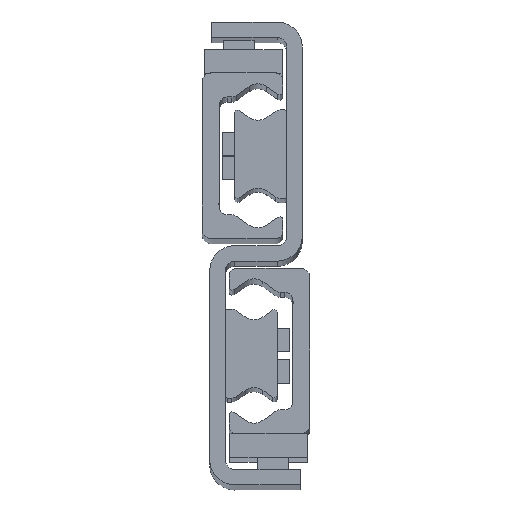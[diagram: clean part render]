
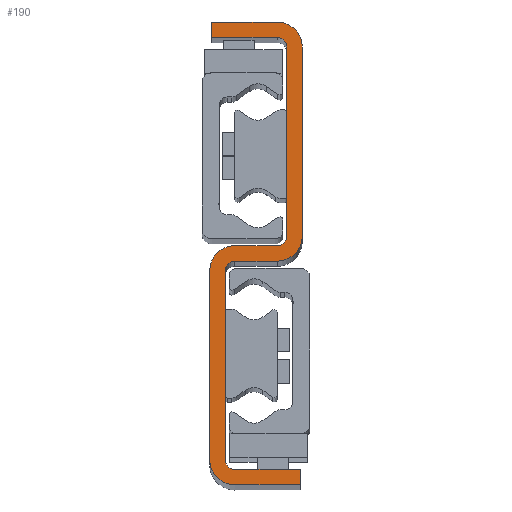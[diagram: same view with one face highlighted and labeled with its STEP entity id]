
A CAD part, top view. The second image highlights one B-rep face of the part: STEP entity #190.
In plain terms, the highlighted planar face has unit normal (0, 0, 1).
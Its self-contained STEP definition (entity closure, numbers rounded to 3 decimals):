
#190=ADVANCED_FACE('',(#593),#594,.T.);
#593=FACE_OUTER_BOUND('',#1207,.T.);
#594=PLANE('',#1208);
#1207=EDGE_LOOP('',(#2445,#2446,#2447,#2448,#2449,#2450,#2451,#2452,#2453,#2454,#2455,#2456,#2457,#2458,#2459,#2460,#2461,#2462,#2463,#2464));
#1208=AXIS2_PLACEMENT_3D('',#2465,#2466,#2467);
#2445=ORIENTED_EDGE('',*,*,#4145,.F.);
#2446=ORIENTED_EDGE('',*,*,#4203,.F.);
#2447=ORIENTED_EDGE('',*,*,#4200,.F.);
#2448=ORIENTED_EDGE('',*,*,#4197,.F.);
#2449=ORIENTED_EDGE('',*,*,#4194,.F.);
#2450=ORIENTED_EDGE('',*,*,#4191,.F.);
#2451=ORIENTED_EDGE('',*,*,#4188,.F.);
#2452=ORIENTED_EDGE('',*,*,#4185,.F.);
#2453=ORIENTED_EDGE('',*,*,#4182,.F.);
#2454=ORIENTED_EDGE('',*,*,#4179,.F.);
#2455=ORIENTED_EDGE('',*,*,#4176,.F.);
#2456=ORIENTED_EDGE('',*,*,#4173,.F.);
#2457=ORIENTED_EDGE('',*,*,#4170,.F.);
#2458=ORIENTED_EDGE('',*,*,#4167,.F.);
#2459=ORIENTED_EDGE('',*,*,#4164,.F.);
#2460=ORIENTED_EDGE('',*,*,#4161,.F.);
#2461=ORIENTED_EDGE('',*,*,#4158,.F.);
#2462=ORIENTED_EDGE('',*,*,#4155,.F.);
#2463=ORIENTED_EDGE('',*,*,#4152,.F.);
#2464=ORIENTED_EDGE('',*,*,#4149,.F.);
#2465=CARTESIAN_POINT('',(-14.,26.,1168.0));
#2466=DIRECTION('',(0.0,0.0,1.0));
#2467=DIRECTION('',(1.0,0.0,0.0));
#4145=EDGE_CURVE('',#5043,#5044,#5045,.T.);
#4149=EDGE_CURVE('',#5044,#5051,#5052,.T.);
#4152=EDGE_CURVE('',#5051,#5056,#5057,.T.);
#4155=EDGE_CURVE('',#5056,#5061,#5062,.T.);
#4158=EDGE_CURVE('',#5061,#5066,#5067,.T.);
#4161=EDGE_CURVE('',#5066,#5071,#5072,.T.);
#4164=EDGE_CURVE('',#5071,#5076,#5077,.T.);
#4167=EDGE_CURVE('',#5076,#5081,#5082,.T.);
#4170=EDGE_CURVE('',#5081,#5086,#5087,.T.);
#4173=EDGE_CURVE('',#5086,#5091,#5092,.T.);
#4176=EDGE_CURVE('',#5091,#5096,#5097,.T.);
#4179=EDGE_CURVE('',#5096,#5101,#5102,.T.);
#4182=EDGE_CURVE('',#5101,#5106,#5107,.T.);
#4185=EDGE_CURVE('',#5106,#5111,#5112,.T.);
#4188=EDGE_CURVE('',#5111,#5116,#5117,.T.);
#4191=EDGE_CURVE('',#5116,#5121,#5122,.T.);
#4194=EDGE_CURVE('',#5121,#5126,#5127,.T.);
#4197=EDGE_CURVE('',#5126,#5131,#5132,.T.);
#4200=EDGE_CURVE('',#5131,#5136,#5137,.T.);
#4203=EDGE_CURVE('',#5136,#5043,#5141,.T.);
#5043=VERTEX_POINT('',#6453);
#5044=VERTEX_POINT('',#6454);
#5045=LINE('',#6455,#6456);
#5051=VERTEX_POINT('',#6465);
#5052=CIRCLE('',#6466,2.5);
#5056=VERTEX_POINT('',#6471);
#5057=LINE('',#6472,#6473);
#5061=VERTEX_POINT('',#6479);
#5062=CIRCLE('',#6480,2.5);
#5066=VERTEX_POINT('',#6485);
#5067=LINE('',#6486,#6487);
#5071=VERTEX_POINT('',#6493);
#5072=LINE('',#6494,#6495);
#5076=VERTEX_POINT('',#6501);
#5077=LINE('',#6502,#6503);
#5081=VERTEX_POINT('',#6509);
#5082=CIRCLE('',#6510,6.5);
#5086=VERTEX_POINT('',#6515);
#5087=LINE('',#6516,#6517);
#5091=VERTEX_POINT('',#6523);
#5092=CIRCLE('',#6524,6.5);
#5096=VERTEX_POINT('',#6529);
#5097=LINE('',#6530,#6531);
#5101=VERTEX_POINT('',#6537);
#5102=CIRCLE('',#6538,2.5);
#5106=VERTEX_POINT('',#6543);
#5107=LINE('',#6544,#6545);
#5111=VERTEX_POINT('',#6551);
#5112=CIRCLE('',#6552,2.5);
#5116=VERTEX_POINT('',#6557);
#5117=LINE('',#6558,#6559);
#5121=VERTEX_POINT('',#6565);
#5122=LINE('',#6566,#6567);
#5126=VERTEX_POINT('',#6573);
#5127=LINE('',#6574,#6575);
#5131=VERTEX_POINT('',#6581);
#5132=CIRCLE('',#6582,6.5);
#5136=VERTEX_POINT('',#6587);
#5137=LINE('',#6588,#6589);
#5141=CIRCLE('',#6595,6.5);
#6453=CARTESIAN_POINT('',(-8.5,24.,1168.0));
#6454=CARTESIAN_POINT('',(-19.5,24.,1168.0));
#6455=CARTESIAN_POINT('',(-8.5,24.,1168.0));
#6456=VECTOR('',#7937,1.0);
#6465=CARTESIAN_POINT('',(-22.,21.5,1168.0));
#6466=AXIS2_PLACEMENT_3D('',#7941,#7942,#7943);
#6471=CARTESIAN_POINT('',(-22.,-27.5,1168.0));
#6472=CARTESIAN_POINT('',(-22.,-27.5,1168.0));
#6473=VECTOR('',#7948,1.0);
#6479=CARTESIAN_POINT('',(-19.5,-30.,1168.0));
#6480=AXIS2_PLACEMENT_3D('',#7951,#7952,#7953);
#6485=CARTESIAN_POINT('',(-2.5,-30.,1168.0));
#6486=CARTESIAN_POINT('',(-19.5,-30.,1168.0));
#6487=VECTOR('',#7958,1.0);
#6493=CARTESIAN_POINT('',(-2.5,-34.,1168.0));
#6494=CARTESIAN_POINT('',(-2.5,-34.,1168.0));
#6495=VECTOR('',#7961,1.0);
#6501=CARTESIAN_POINT('',(-19.5,-34.,1168.0));
#6502=CARTESIAN_POINT('',(-19.5,-34.,1168.0));
#6503=VECTOR('',#7964,1.0);
#6509=CARTESIAN_POINT('',(-26.,-27.5,1168.0));
#6510=AXIS2_PLACEMENT_3D('',#7967,#7968,#7969);
#6515=CARTESIAN_POINT('',(-26.,21.5,1168.0));
#6516=CARTESIAN_POINT('',(-26.,21.5,1168.0));
#6517=VECTOR('',#7974,1.0);
#6523=CARTESIAN_POINT('',(-19.5,28.,1168.0));
#6524=AXIS2_PLACEMENT_3D('',#7977,#7978,#7979);
#6529=CARTESIAN_POINT('',(-8.5,28.,1168.0));
#6530=CARTESIAN_POINT('',(-8.5,28.,1168.0));
#6531=VECTOR('',#7984,1.0);
#6537=CARTESIAN_POINT('',(-6.,30.5,1168.0));
#6538=AXIS2_PLACEMENT_3D('',#7987,#7988,#7989);
#6543=CARTESIAN_POINT('',(-6.,79.5,1168.0));
#6544=CARTESIAN_POINT('',(-6.,79.5,1168.0));
#6545=VECTOR('',#7994,1.0);
#6551=CARTESIAN_POINT('',(-8.5,82.,1168.0));
#6552=AXIS2_PLACEMENT_3D('',#7997,#7998,#7999);
#6557=CARTESIAN_POINT('',(-25.5,82.,1168.0));
#6558=CARTESIAN_POINT('',(-25.5,82.,1168.0));
#6559=VECTOR('',#8004,1.0);
#6565=CARTESIAN_POINT('',(-25.5,86.,1168.0));
#6566=CARTESIAN_POINT('',(-25.5,86.,1168.0));
#6567=VECTOR('',#8007,1.0);
#6573=CARTESIAN_POINT('',(-8.5,86.,1168.0));
#6574=CARTESIAN_POINT('',(-25.5,86.,1168.0));
#6575=VECTOR('',#8010,1.0);
#6581=CARTESIAN_POINT('',(-2.,79.5,1168.0));
#6582=AXIS2_PLACEMENT_3D('',#8013,#8014,#8015);
#6587=CARTESIAN_POINT('',(-2.,30.5,1168.0));
#6588=CARTESIAN_POINT('',(-2.,79.5,1168.0));
#6589=VECTOR('',#8020,1.0);
#6595=AXIS2_PLACEMENT_3D('',#8023,#8024,#8025);
#7937=DIRECTION('',(-1.0,0.,0.0));
#7941=CARTESIAN_POINT('',(-19.5,21.5,1168.0));
#7942=DIRECTION('',(0.0,0.0,1.0));
#7943=DIRECTION('',(1.0,0.0,0.0));
#7948=DIRECTION('',(-0.0,-1.0,-0.0));
#7951=CARTESIAN_POINT('',(-19.5,-27.5,1168.0));
#7952=DIRECTION('',(0.0,0.0,1.0));
#7953=DIRECTION('',(1.0,0.0,0.0));
#7958=DIRECTION('',(1.,0.,0.0));
#7961=DIRECTION('',(-0.0,-1.0,-0.0));
#7964=DIRECTION('',(-1.,0.,-0.0));
#7967=CARTESIAN_POINT('',(-19.5,-27.5,1168.0));
#7968=DIRECTION('',(0.0,0.0,-1.0));
#7969=DIRECTION('',(1.0,0.0,0.0));
#7974=DIRECTION('',(0.0,1.0,0.0));
#7977=CARTESIAN_POINT('',(-19.5,21.5,1168.0));
#7978=DIRECTION('',(0.0,0.0,-1.0));
#7979=DIRECTION('',(1.0,0.0,0.0));
#7984=DIRECTION('',(1.0,0.,0.0));
#7987=CARTESIAN_POINT('',(-8.5,30.5,1168.0));
#7988=DIRECTION('',(0.0,0.0,1.0));
#7989=DIRECTION('',(1.0,0.0,0.0));
#7994=DIRECTION('',(0.0,1.0,0.0));
#7997=CARTESIAN_POINT('',(-8.5,79.5,1168.0));
#7998=DIRECTION('',(0.0,0.0,1.0));
#7999=DIRECTION('',(1.0,0.0,0.0));
#8004=DIRECTION('',(-1.,0.,0.0));
#8007=DIRECTION('',(0.0,1.0,0.0));
#8010=DIRECTION('',(1.,0.,0.0));
#8013=CARTESIAN_POINT('',(-8.5,79.5,1168.0));
#8014=DIRECTION('',(0.0,0.0,-1.0));
#8015=DIRECTION('',(1.0,0.0,0.0));
#8020=DIRECTION('',(0.,-1.0,0.0));
#8023=CARTESIAN_POINT('',(-8.5,30.5,1168.0));
#8024=DIRECTION('',(0.0,0.0,-1.0));
#8025=DIRECTION('',(1.0,0.0,0.0));
